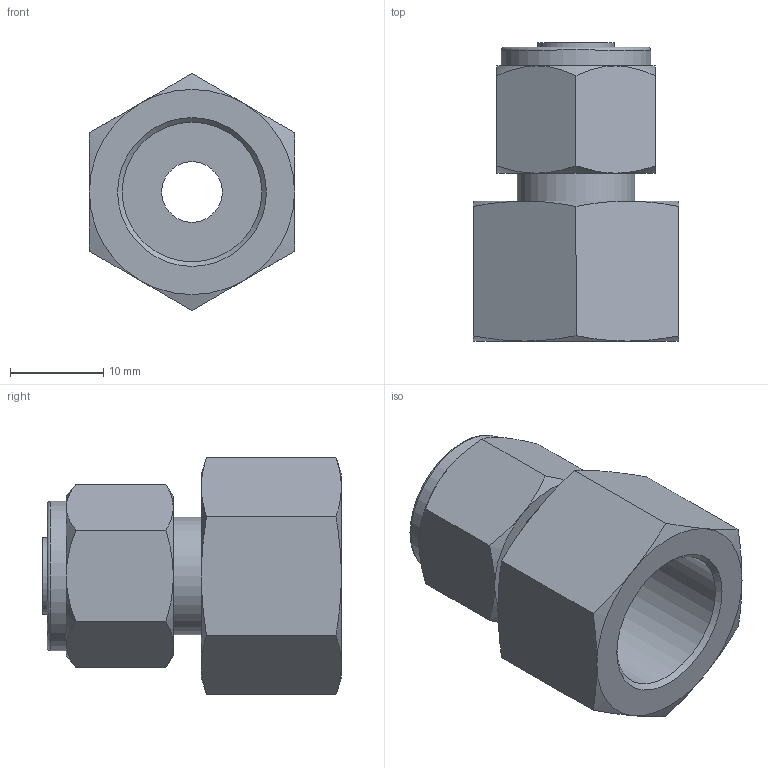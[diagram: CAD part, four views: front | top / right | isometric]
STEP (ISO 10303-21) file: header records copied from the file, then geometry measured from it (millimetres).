
FILE_DESCRIPTION(/* description */ (''),/* implementation_level */ '2;1');
FILE_NAME(/* name */ 'CXH14 1008 B3.stp',/* time_stamp */ '2025-01-12T15:00:27+01:00',/* author */ ('freju'),/* organization */ (''),/* preprocessor_version */ 'ST-DEVELOPER v20',/* originating_system */ 'Autodesk Inventor 2025',/* authorisation */ '');
FILE_SCHEMA (('AUTOMOTIVE_DESIGN { 1 0 10303 214 3 1 1 }'));
Length unit declared in the file: millimetre
Products named in the file (3): CXH14 1008 B3; CXH16; CXH14 1008 B3_1
Assembly tree (2 placements, depth 2):
  CXH14 1008 B3
    CXH16
    CXH14 1008 B3_1
Bounding box: 22 x 32 x 25.4 mm (x, y, z)
Volume: 6936.2 mm3; surface area: 4933 mm2
Topology: 2 solids, 2 shells, 59 faces, 124 edges, 75 vertices
Faces by surface type: cone 29, plane 21, cylinder 8, torus 1
Full cylindrical faces by diameter (mm): 6.5 x1, 8.2 x1, 9.2 x1, 11 x1, 12.6 x1, 12.917 x1, 14.95 x1, 16 x1
Entity records: 1639 total; most frequent: CARTESIAN_POINT 359, DIRECTION 255, ORIENTED_EDGE 248, EDGE_CURVE 124, AXIS2_PLACEMENT_3D 115, VERTEX_POINT 74, EDGE_LOOP 68, FACE_OUTER_BOUND 59
